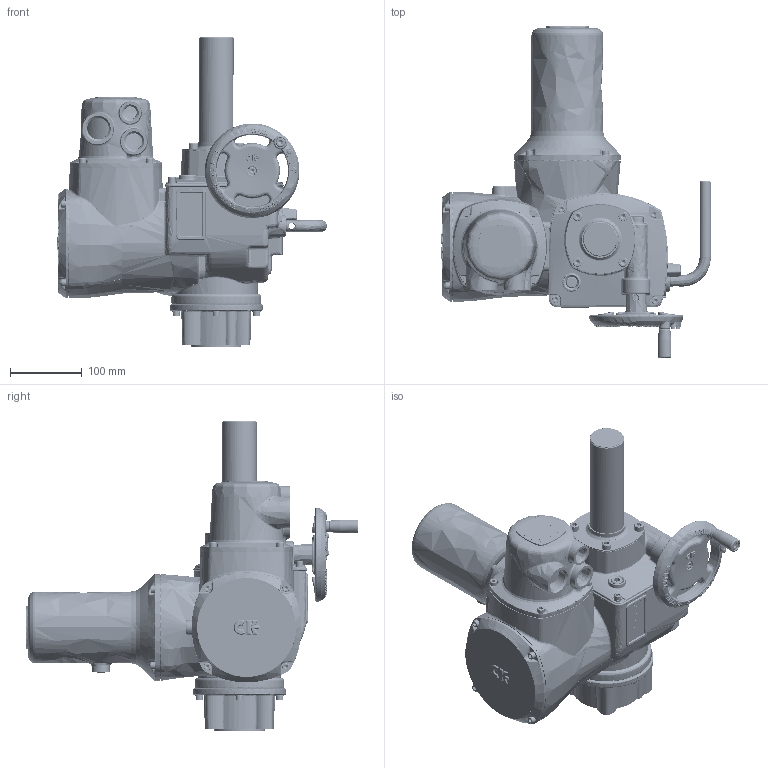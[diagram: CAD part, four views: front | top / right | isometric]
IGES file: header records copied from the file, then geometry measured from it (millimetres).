
Start section: C
Global section: file name: CK120 F10 THRUST BASE.igs; native system: By Siemens PLM Incorporated; preprocessor: XPlus GENERIC/IGES 19.0.9; author: Author; organization: Title; date: 20170823.184300; units: millimetre
Bounding box: 376.35 x 462.65 x 432.33 mm (x, y, z)
Surface area: 536096.7 mm2 (no closed solid volume)
Topology: 0 solids, 0 shells, 5014 faces, 29102 edges, 28873 vertices
Faces by surface type: bspline 5014
